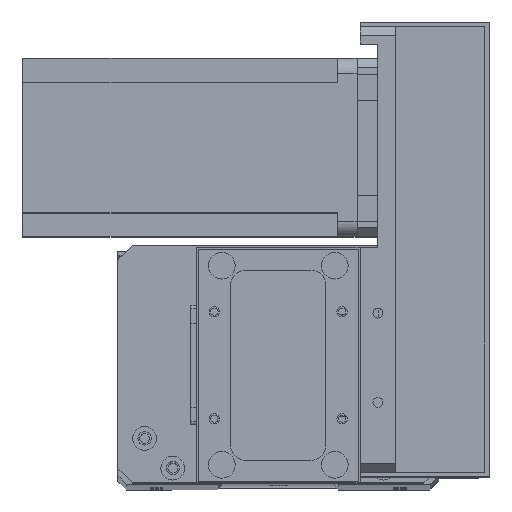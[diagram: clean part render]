
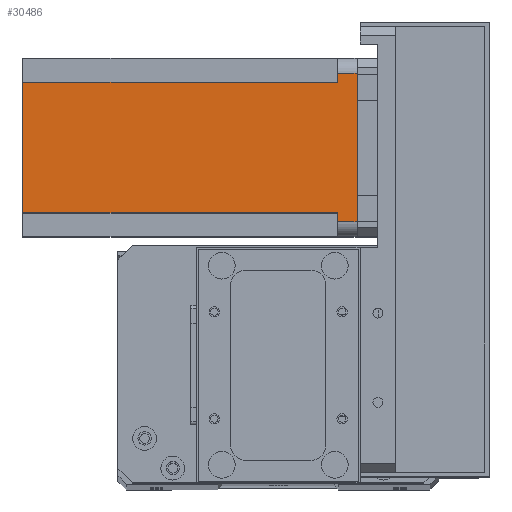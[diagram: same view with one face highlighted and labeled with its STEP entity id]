
A CAD part, top view. The second image highlights one B-rep face of the part: STEP entity #30486.
In plain terms, the highlighted planar face has unit normal (0, 0, 1) as drawn and (0, 1, 0) by its records, which use the part's own axes.
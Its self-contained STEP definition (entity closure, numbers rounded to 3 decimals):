
#182 = CARTESIAN_POINT ( 'NONE',  ( 52., 60., -112.5 ) ) ;
#576 = AXIS2_PLACEMENT_3D ( 'NONE', #14655, #7699, #24113 ) ;
#700 = ORIENTED_EDGE ( 'NONE', *, *, #12139, .T. ) ;
#833 = CARTESIAN_POINT ( 'NONE',  ( 0., 60., 0. ) ) ;
#1138 = DIRECTION ( 'NONE',  ( 0., 0., 1. ) ) ;
#1366 = DIRECTION ( 'NONE',  ( -1., 0., 0. ) ) ;
#1611 = VECTOR ( 'NONE', #3212, 1000. ) ;
#2060 = VECTOR ( 'NONE', #1366, 1000. ) ;
#3212 = DIRECTION ( 'NONE',  ( -1., 0., 0. ) ) ;
#3418 = CARTESIAN_POINT ( 'NONE',  ( 8., 60., -6.5 ) ) ;
#3517 = EDGE_CURVE ( 'NONE', #9121, #6472, #12836, .T. ) ;
#5622 = LINE ( 'NONE', #15241, #17364 ) ;
#6472 = VERTEX_POINT ( 'NONE', #19981 ) ;
#6601 = VECTOR ( 'NONE', #9727, 1000. ) ;
#7565 = CARTESIAN_POINT ( 'NONE',  ( 52., 60., -6.5 ) ) ;
#7699 = DIRECTION ( 'NONE',  ( 0., 1., 0. ) ) ;
#8152 = VECTOR ( 'NONE', #28448, 1000. ) ;
#8389 = CARTESIAN_POINT ( 'NONE',  ( 0., 60., -112.5 ) ) ;
#8853 = VECTOR ( 'NONE', #14618, 1000. ) ;
#9017 = VERTEX_POINT ( 'NONE', #17370 ) ;
#9118 = ORIENTED_EDGE ( 'NONE', *, *, #18480, .F. ) ;
#9121 = VERTEX_POINT ( 'NONE', #27352 ) ;
#9466 = EDGE_CURVE ( 'NONE', #14978, #6472, #9595, .T. ) ;
#9595 = LINE ( 'NONE', #7565, #8853 ) ;
#9727 = DIRECTION ( 'NONE',  ( 0., 0., -1. ) ) ;
#10893 = ORIENTED_EDGE ( 'NONE', *, *, #13584, .T. ) ;
#11247 = VERTEX_POINT ( 'NONE', #16067 ) ;
#11738 = VECTOR ( 'NONE', #25922, 1000. ) ;
#12119 = VERTEX_POINT ( 'NONE', #20076 ) ;
#12139 = EDGE_CURVE ( 'NONE', #9017, #23602, #20064, .T. ) ;
#12562 = ORIENTED_EDGE ( 'NONE', *, *, #3517, .T. ) ;
#12836 = LINE ( 'NONE', #14324, #6601 ) ;
#12856 = CARTESIAN_POINT ( 'NONE',  ( 52., 60., -6.5 ) ) ;
#13584 = EDGE_CURVE ( 'NONE', #27993, #11247, #29203, .T. ) ;
#14296 = ORIENTED_EDGE ( 'NONE', *, *, #9466, .F. ) ;
#14324 = CARTESIAN_POINT ( 'NONE',  ( 55., 60., -112.5 ) ) ;
#14369 = LINE ( 'NONE', #182, #8152 ) ;
#14618 = DIRECTION ( 'NONE',  ( 1., 0., 0. ) ) ;
#14655 = CARTESIAN_POINT ( 'NONE',  ( 0., 60., -112.5 ) ) ;
#14978 = VERTEX_POINT ( 'NONE', #12856 ) ;
#15241 = CARTESIAN_POINT ( 'NONE',  ( 5., 60., -112.5 ) ) ;
#16067 = CARTESIAN_POINT ( 'NONE',  ( 5., 60., -6.5 ) ) ;
#16357 = EDGE_CURVE ( 'NONE', #11247, #12119, #5622, .T. ) ;
#17352 = EDGE_CURVE ( 'NONE', #9017, #14978, #14369, .T. ) ;
#17364 = VECTOR ( 'NONE', #1138, 1000. ) ;
#17370 = CARTESIAN_POINT ( 'NONE',  ( 52., 60., -112.5 ) ) ;
#17403 = VECTOR ( 'NONE', #29232, 1000. ) ;
#18132 = ORIENTED_EDGE ( 'NONE', *, *, #16357, .T. ) ;
#18317 = CARTESIAN_POINT ( 'NONE',  ( 8., 60., -6.5 ) ) ;
#18480 = EDGE_CURVE ( 'NONE', #27993, #23602, #30497, .T. ) ;
#19358 = PLANE ( 'NONE',  #576 ) ;
#19408 = ORIENTED_EDGE ( 'NONE', *, *, #17352, .F. ) ;
#19681 = FACE_OUTER_BOUND ( 'NONE', #20026, .T. ) ;
#19981 = CARTESIAN_POINT ( 'NONE',  ( 55., 60., -6.5 ) ) ;
#20026 = EDGE_LOOP ( 'NONE', ( #23877, #12562, #14296, #19408, #700, #9118, #10893, #18132 ) ) ;
#20064 = LINE ( 'NONE', #8389, #2060 ) ;
#20076 = CARTESIAN_POINT ( 'NONE',  ( 5., 60., 0. ) ) ;
#20157 = CARTESIAN_POINT ( 'NONE',  ( 8., 60., -112.5 ) ) ;
#23446 = EDGE_CURVE ( 'NONE', #9121, #12119, #25904, .T. ) ;
#23555 = CARTESIAN_POINT ( 'NONE',  ( 8., 60., -112.5 ) ) ;
#23602 = VERTEX_POINT ( 'NONE', #20157 ) ;
#23877 = ORIENTED_EDGE ( 'NONE', *, *, #23446, .F. ) ;
#24113 = DIRECTION ( 'NONE',  ( 0., 0., 1. ) ) ;
#25904 = LINE ( 'NONE', #833, #1611 ) ;
#25922 = DIRECTION ( 'NONE',  ( 0., 0., -1. ) ) ;
#27352 = CARTESIAN_POINT ( 'NONE',  ( 55., 60., 0. ) ) ;
#27993 = VERTEX_POINT ( 'NONE', #18317 ) ;
#28448 = DIRECTION ( 'NONE',  ( 0., 0., 1. ) ) ;
#29203 = LINE ( 'NONE', #3418, #17403 ) ;
#29232 = DIRECTION ( 'NONE',  ( -1., 0., 0. ) ) ;
#30486 = ADVANCED_FACE ( 'NONE', ( #19681 ), #19358, .T. ) ;
#30497 = LINE ( 'NONE', #23555, #11738 ) ;
